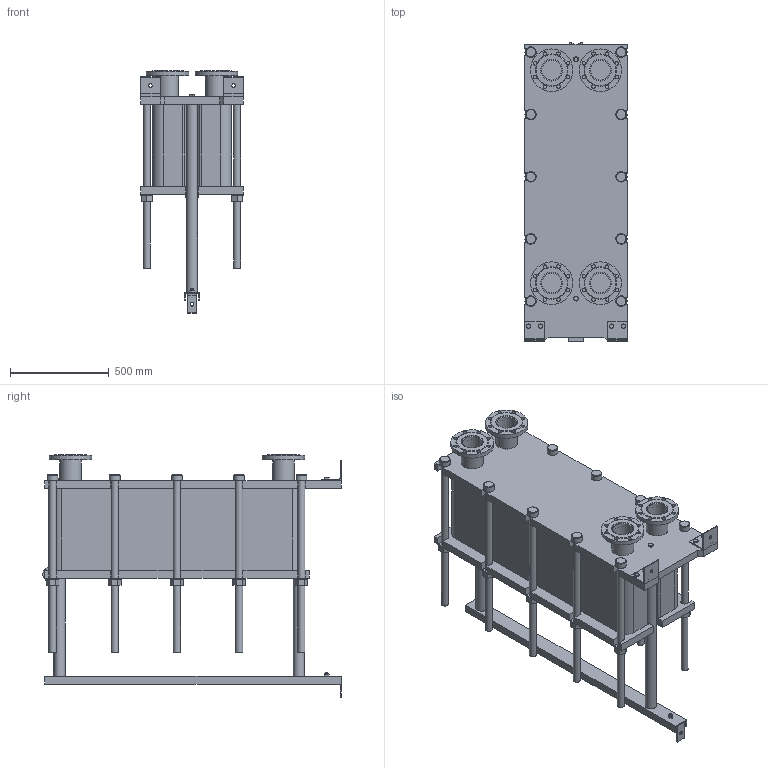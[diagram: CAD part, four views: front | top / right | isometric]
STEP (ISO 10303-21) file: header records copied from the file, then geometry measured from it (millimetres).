
FILE_DESCRIPTION(/* description */ (''),/* implementation_level */ '2;1');
FILE_NAME(/* name */ 'C:\Users\zhuro\Desktop\ENCO\TO\ЭН-04\ЭН-0,5-04-120-1.stp',/* time_stamp */ '2022-06-06T10:56:04+03:00',/* author */ ('zhuro'),/* organization */ (''),/* preprocessor_version */ 'ST-DEVELOPER v18.1',/* originating_system */ 'Autodesk Inventor 2022',/* authorisation */ '');
FILE_SCHEMA (('AUTOMOTIVE_DESIGN { 1 0 10303 214 3 1 1 }'));
Length unit declared in the file: millimetre
Products named in the file (1): ЭН-0,5-04-120-1
Bounding box: 520 x 1510 x 1225 mm (x, y, z)
Volume: 279181492.9 mm3; surface area: 8795063.8 mm2
Topology: 45 solids, 45 shells, 668 faces, 1611 edges, 1048 vertices
Faces by surface type: plane 457, cylinder 166, cone 39, torus 6
Full cylindrical faces by diameter (mm): 8 x4, 10 x2, 16 x8, 18 x35, 36 x25, 40 x2, 42 x1, 45 x4, 54 x10, 57 x2, 60 x10, 68 x2, 100 x4, 110 x8, 215 x4
Entity records: 23607 total; most frequent: CARTESIAN_POINT 7348, DIRECTION 3371, ORIENTED_EDGE 3142, EDGE_CURVE 1571, AXIS2_PLACEMENT_3D 1199, VERTEX_POINT 1044, LINE 973, VECTOR 973
